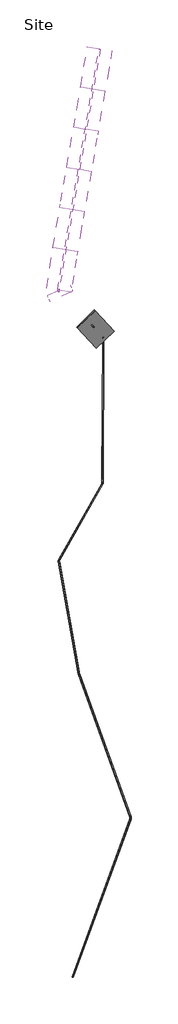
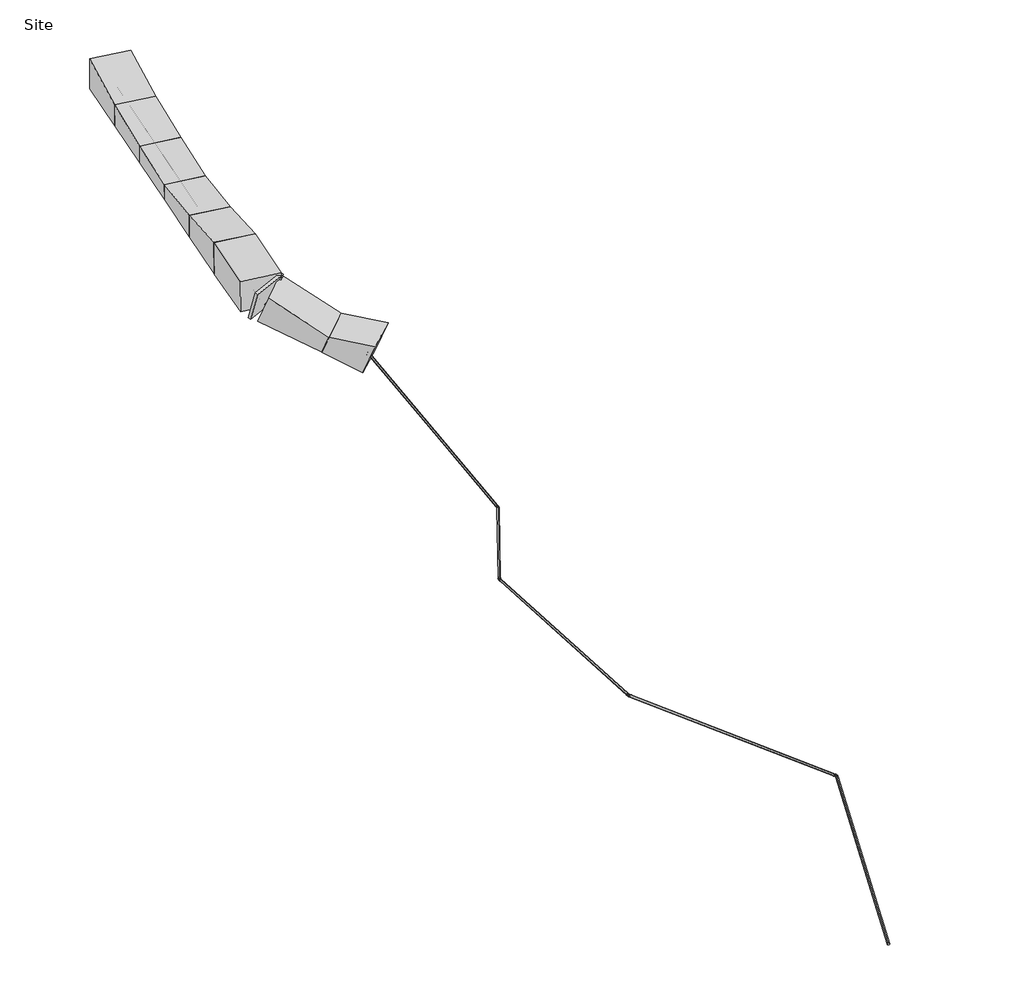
# One storey: 9 proxies, 7 pipe segments, 6 pipe fittings.
"""IFC4 building model written with IfcOpenShell, lengths in millimetres."""

from ifc_helpers import new_model, si_unit, point, frame, frame_2d, origin, place, context, project, spatial, circle_curve, trimmed, segment, composite_curve, outline, extrude, transform, mapped, element, save
from components import generic_models_437c631e, generic_models_aa4903e3, generic_models_9546db6e, generic_models_83ac6ffc, generic_models_15930065, generic_models_fc119a4f, generic_models_04c47b5f, generic_models_5fb7a897, generic_models_6456a392, m_elbow_pvc_sch_40_standard_b928e138, m_elbow_pvc_sch_40_standard_837b0bcb, m_elbow_pvc_sch_40_standard_ea1b4964, m_elbow_pvc_sch_40_standard_bafaa3fb, m_elbow_pvc_sch_40_standard_75780b4e, m_elbow_pvc_sch_40_standard_62035922

model = new_model("IFC4")

# Units and contexts
model_context = context("Model", 3, world=origin())
ifc_project = project(units=[si_unit("LENGTHUNIT", "METRE", prefix="MILLI")], contexts=[model_context])

# Site, building, storey
site = spatial("IfcSite", under=ifc_project)
building = spatial("IfcBuilding", under=site)
storey = spatial("IfcBuildingStorey", under=building, Name="Site", Elevation=4000.0)

# Proxies
placement = place(None, origin())
generic_models_shape = generic_models_437c631e(model_context)
element("IfcBuildingElementProxy", 1, Name="Excavation FamilySP : Excavation FamilySP", ObjectType="Excavation FamilySP : Excavation FamilySP", at=placement, inside=storey, context=model_context, shape_type="MappedRepresentation", body=[
    mapped(generic_models_shape, transform((-72103.1402909, 35015.1639087, 6227.6737437), x_axis=(0.9856363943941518, -0.16888131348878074, 0.0), y_axis=(0.16888131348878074, 0.9856363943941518, 0.0), z_axis=(0.0, 0.0, 1.0))),
])
generic_models_2_shape = generic_models_aa4903e3(model_context)
element("IfcBuildingElementProxy", 2, Name="Excavation FamilySP : Excavation FamilySP", ObjectType="Excavation FamilySP : Excavation FamilySP", at=placement, inside=storey, context=model_context, shape_type="MappedRepresentation", body=[
    mapped(generic_models_2_shape, transform((-72947.2553685, 30088.6831493, 6359.0401772), x_axis=(0.9856363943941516, -0.1688813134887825, 0.0), y_axis=(0.1688813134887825, 0.9856363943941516, 0.0), z_axis=(0.0, 0.0, 1.0))),
])
generic_models_3_shape = generic_models_9546db6e(model_context)
element("IfcBuildingElementProxy", 3, Name="Excavation FamilySP : Excavation FamilySP", ObjectType="Excavation FamilySP : Excavation FamilySP", at=placement, inside=storey, context=model_context, shape_type="MappedRepresentation", body=[
    mapped(generic_models_3_shape, transform((-73791.370446, 25162.20239, 6490.4066107), x_axis=(0.9856363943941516, -0.1688813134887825, 0.0), y_axis=(0.1688813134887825, 0.9856363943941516, 0.0), z_axis=(0.0, 0.0, 1.0))),
])
generic_models_4_shape = generic_models_83ac6ffc(model_context)
element("IfcBuildingElementProxy", 4, Name="Excavation FamilySP : Excavation FamilySP", ObjectType="Excavation FamilySP : Excavation FamilySP", at=placement, inside=storey, context=model_context, shape_type="MappedRepresentation", body=[
    mapped(generic_models_4_shape, transform((-74635.4855236, 20235.7216307, 6621.7730441), x_axis=(0.9856363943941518, -0.16888131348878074, 0.0), y_axis=(0.16888131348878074, 0.9856363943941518, 0.0), z_axis=(0.0, 0.0, 1.0))),
])
generic_models_5_shape = generic_models_15930065(model_context)
element("IfcBuildingElementProxy", 5, Name="Excavation FamilySP : Excavation FamilySP", ObjectType="Excavation FamilySP : Excavation FamilySP", at=placement, inside=storey, context=model_context, shape_type="MappedRepresentation", body=[
    mapped(generic_models_5_shape, transform((-75479.6006012, 15309.2408714, 6753.1394776), x_axis=(0.9856363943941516, -0.1688813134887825, 0.0), y_axis=(0.1688813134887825, 0.9856363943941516, 0.0), z_axis=(0.0, 0.0, 1.0))),
])
generic_models_6_shape = generic_models_fc119a4f(model_context)
element("IfcBuildingElementProxy", 6, Name="Excavation FamilySP : Excavation FamilySP", ObjectType="Excavation FamilySP : Excavation FamilySP", at=placement, inside=storey, context=model_context, shape_type="MappedRepresentation", body=[
    mapped(generic_models_6_shape, transform((-76323.7156788, 10382.760112, 6884.5059111), x_axis=(0.9877946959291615, -0.15576148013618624, 0.0), y_axis=(0.15576148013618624, 0.9877946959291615, 0.0), z_axis=(0.0, 0.0, 1.0))),
])
generic_models_7_shape = generic_models_04c47b5f(model_context)
element("IfcBuildingElementProxy", 7, Name="Excavation FamilySP : Excavation FamilySP", ObjectType="Excavation FamilySP : Excavation FamilySP", at=placement, inside=storey, context=model_context, shape_type="MappedRepresentation", body=[
    mapped(generic_models_7_shape, transform((-77113.4628499, 5374.4097411, 6983.5706996), x_axis=(0.9108628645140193, 0.4127091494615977, 0.0), y_axis=(-0.4127091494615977, 0.9108628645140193, 0.0), z_axis=(0.0, 0.0, 1.0))),
])
generic_models_8_shape = generic_models_5fb7a897(model_context)
element("IfcBuildingElementProxy", 8, Name="Excavation FamilySP : Excavation FamilySP", ObjectType="Excavation FamilySP : Excavation FamilySP", at=placement, inside=storey, context=model_context, shape_type="MappedRepresentation", body=[
    mapped(generic_models_8_shape, transform((-77027.5931339, 5184.8924125, 6929.8731907), x_axis=(0.7156555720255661, 0.6984533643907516, 0.0), y_axis=(-0.6984533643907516, 0.7156555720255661, 0.0), z_axis=(0.0, 0.0, 1.0))),
])
generic_models_9_shape = generic_models_6456a392(model_context)
element("IfcBuildingElementProxy", 9, Name="Excavation FamilySP : Excavation FamilySP", ObjectType="Excavation FamilySP : Excavation FamilySP", at=placement, inside=storey, context=model_context, shape_type="MappedRepresentation", body=[
    mapped(generic_models_9_shape, transform((-73762.8995048, 1839.7926453, 5154.462497), x_axis=(0.7298751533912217, 0.6835804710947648, 0.0), y_axis=(-0.6835804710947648, 0.7298751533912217, 0.0), z_axis=(0.0, 0.0, 1.0))),
])

# Pipe fittings
m_elbow_pvc_sch_40_standard_shape = m_elbow_pvc_sch_40_standard_b928e138(model_context)
element("IfcPipeFitting", 10, ObjectType="M_Elbow - PVC - Sch 40 : Standard", at=placement, inside=storey, context=model_context, shape_type="MappedRepresentation", body=[
    mapped(m_elbow_pvc_sch_40_standard_shape, transform((-77186.8620352, 5345.2077326, 7518.8341265), x_axis=(-0.16882301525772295, -0.9852961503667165, 0.026273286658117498), y_axis=(0.8771469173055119, -0.16234384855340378, -0.45194884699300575), z_axis=(0.4495687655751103, -0.053253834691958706, 0.891656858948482))),
])
m_elbow_pvc_sch_40_standard_2_shape = m_elbow_pvc_sch_40_standard_837b0bcb(model_context)
element("IfcPipeFitting", 11, ObjectType="M_Elbow - PVC - Sch 40 : Standard", at=placement, inside=storey, context=model_context, shape_type="MappedRepresentation", body=[
    mapped(m_elbow_pvc_sch_40_standard_2_shape, transform((-71655.7313714, -319.2729312, 4508.5391088), x_axis=(0.0, 0.9933244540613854, 0.11535392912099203), y_axis=(-0.9213241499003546, -0.0448490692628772, 0.3861999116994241), z_axis=(0.388795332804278, -0.10627836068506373, 0.9151738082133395))),
])
m_elbow_pvc_sch_40_standard_3_shape = m_elbow_pvc_sch_40_standard_ea1b4964(model_context)
element("IfcPipeFitting", 12, ObjectType="M_Elbow - PVC - Sch 40 : Standard", at=placement, inside=storey, context=model_context, shape_type="MappedRepresentation", body=[
    mapped(m_elbow_pvc_sch_40_standard_3_shape, transform((-71722.4063714, -18301.4074188, 2449.1859711), x_axis=(0.49458637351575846, 0.8566487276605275, -0.14675583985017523), y_axis=(-0.7474055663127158, 0.5053915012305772, 0.4312358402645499), z_axis=(0.4435867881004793, -0.10359723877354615, 0.8902237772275))),
])
m_elbow_pvc_sch_40_standard_4_shape = m_elbow_pvc_sch_40_standard_bafaa3fb(model_context)
element("IfcPipeFitting", 13, ObjectType="M_Elbow - PVC - Sch 40 : Standard", at=placement, inside=storey, context=model_context, shape_type="MappedRepresentation", body=[
    mapped(m_elbow_pvc_sch_40_standard_4_shape, transform((-77132.5753869, -27843.5264867, 4042.3223982), x_axis=(-0.4880170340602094, -0.8609248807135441, 0.14369316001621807), y_axis=(0.7688300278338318, -0.5019376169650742, -0.396180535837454), z_axis=(0.41320668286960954, -0.0828672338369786, 0.9068590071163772))),
])
m_elbow_pvc_sch_40_standard_5_shape = m_elbow_pvc_sch_40_standard_75780b4e(model_context)
element("IfcPipeFitting", 14, ObjectType="M_Elbow - PVC - Sch 40 : Standard", at=placement, inside=storey, context=model_context, shape_type="MappedRepresentation", body=[
    mapped(m_elbow_pvc_sch_40_standard_5_shape, transform((-74679.048498, -41624.818926, 1640.3138191), x_axis=(0.17276666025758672, -0.9703302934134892, -0.16914728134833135), y_axis=(0.5796213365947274, -0.038688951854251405, 0.8139669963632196), z_axis=(-0.7963609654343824, -0.23866773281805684, 0.555739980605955))),
])
m_elbow_pvc_sch_40_standard_6_shape = m_elbow_pvc_sch_40_standard_62035922(model_context)
element("IfcPipeFitting", 15, ObjectType="M_Elbow - PVC - Sch 40 : Standard", at=placement, inside=storey, context=model_context, shape_type="MappedRepresentation", body=[
    mapped(m_elbow_pvc_sch_40_standard_6_shape, transform((-68271.882547, -59478.9787209, 3394.2247119), x_axis=(0.3420193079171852, 0.9396903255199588, -0.0022102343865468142), y_axis=(-0.9304609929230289, 0.3383293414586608, -0.14062573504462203), z_axis=(-0.13139685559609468, 0.05015325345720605, 0.9900603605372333))),
])

# Pipe segments
element("IfcPipeSegment", 16, ObjectType="Default", at=placement, inside=storey, context=model_context, shape_type="SweptSolid", body=[
    extrude(outline(composite_curve([segment(trimmed(circle_curve(frame_2d((0.0, 84.1375)), 84.1375), [point((-84.1366474, 84.5162603))], [point((0.3787603, 168.2741474))], False, "CARTESIAN"), True, "CONTINUOUS"), segment(trimmed(circle_curve(frame_2d((0.0, 84.1375)), 84.1375), [point((0.3787603, 168.2741474))], [point((84.1366474, 83.7587397))], False, "CARTESIAN"), True, "CONTINUOUS"), segment(trimmed(circle_curve(frame_2d((0.0, 84.1375)), 84.1375), [point((84.1366474, 83.7587397))], [point((-0.3787603, 0.0008525))], False, "CARTESIAN"), True, "CONTINUOUS"), segment(trimmed(circle_curve(frame_2d((0.0, 84.1375)), 84.1375), [point((-0.3787603, 0.0008525))], [point((-84.1366474, 84.5162603))], False, "CARTESIAN"), True, "CONTINUOUS")], self_intersect=False)), frame((-72103.1402909, 35012.9211483, 6643.5661564), z_axis=(-0.16882301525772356, -0.9852961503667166, 0.026273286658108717), x_axis=(0.985646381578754, -0.1687630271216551, 0.004500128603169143)), (0.0, 0.0, 1.0), 29934.9292185),
])
element("IfcPipeSegment", 17, ObjectType="Default", at=placement, inside=storey, context=model_context, shape_type="SweptSolid", body=[
    extrude(outline(composite_curve([segment(trimmed(circle_curve(frame_2d((0.0, -84.1375)), 84.1375), [point((-79.4990986, -111.6876766))], [point((-27.5501766, -4.6384014))], False, "CARTESIAN"), True, "CONTINUOUS"), segment(trimmed(circle_curve(frame_2d((0.0, -84.1375)), 84.1375), [point((-27.5501766, -4.6384014))], [point((79.4990986, -56.5873233))], False, "CARTESIAN"), True, "CONTINUOUS"), segment(trimmed(circle_curve(frame_2d((0.0, -84.1375)), 84.1375), [point((79.4990986, -56.5873233))], [point((27.5501766, -163.6365985))], False, "CARTESIAN"), True, "CONTINUOUS"), segment(trimmed(circle_curve(frame_2d((0.0, -84.1375)), 84.1375), [point((27.5501766, -163.6365985))], [point((-79.4990986, -111.6876766))], False, "CARTESIAN"), True, "CONTINUOUS")], self_intersect=False)), frame((-71771.8238767, -160.8766366, 4497.3541648), z_axis=(-0.652938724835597, 0.6690199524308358, 0.3550821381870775), x_axis=(0.7574107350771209, 0.5767399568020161, 0.30610455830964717)), (0.0, 0.0, 1.0), 8114.4773905),
])
element("IfcPipeSegment", 18, ObjectType="Default", at=placement, inside=storey, context=model_context, shape_type="SweptSolid", body=[
    extrude(outline(composite_curve([segment(trimmed(circle_curve(frame_2d((0.0, -84.1375001)), 84.1375), [point((-84.1374924, -84.1016578))], [point((0.0358422, -7.6e-06))], False, "CARTESIAN"), True, "CONTINUOUS"), segment(trimmed(circle_curve(frame_2d((0.0, -84.1375001)), 84.1375), [point((0.0358422, -7.6e-06))], [point((84.1374924, -84.1733423))], False, "CARTESIAN"), True, "CONTINUOUS"), segment(trimmed(circle_curve(frame_2d((0.0, -84.1375001)), 84.1375), [point((84.1374924, -84.1733423))], [point((-0.0358422, -168.2749924))], False, "CARTESIAN"), True, "CONTINUOUS"), segment(trimmed(circle_curve(frame_2d((0.0, -84.1375001)), 84.1375), [point((-0.0358422, -168.2749924))], [point((-84.1374924, -84.1016578))], False, "CARTESIAN"), True, "CONTINUOUS")], self_intersect=False)), frame((-71721.9102709, -18159.3523307, 2380.7648687), z_axis=(0.0037202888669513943, 0.9935010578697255, 0.11376206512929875), x_axis=(0.9999930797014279, -0.003696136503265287, -0.00042323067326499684)), (0.0, 0.0, 1.0), 17788.6454107),
])
element("IfcPipeSegment", 19, ObjectType="Default", at=placement, inside=storey, context=model_context, shape_type="SweptSolid", body=[
    extrude(outline(composite_curve([segment(trimmed(circle_curve(frame_2d((0.0, 84.1375)), 84.1375), [point((-83.8597739, 90.9681103))], [point((6.8306102, 167.9972739))], False, "CARTESIAN"), True, "CONTINUOUS"), segment(trimmed(circle_curve(frame_2d((0.0, 84.1375)), 84.1375), [point((6.8306102, 167.9972739))], [point((83.8597738, 77.3068898))], False, "CARTESIAN"), True, "CONTINUOUS"), segment(trimmed(circle_curve(frame_2d((0.0, 84.1375)), 84.1375), [point((83.8597738, 77.3068898))], [point((-6.8306103, 0.2777262))], False, "CARTESIAN"), True, "CONTINUOUS"), segment(trimmed(circle_curve(frame_2d((0.0, 84.1375)), 84.1375), [point((-6.8306103, 0.2777262))], [point((-83.8597739, 90.9681103))], False, "CARTESIAN"), True, "CONTINUOUS")], self_intersect=False)), frame((-71788.3594643, -18429.4929369, 2385.7663609), z_axis=(-0.4880170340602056, -0.8609248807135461, 0.1436931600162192), x_axis=(0.8728341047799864, -0.48135837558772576, 0.08034139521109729)), (0.0, 0.0, 1.0), 10817.5298866),
])
element("IfcPipeSegment", 20, ObjectType="Default", at=placement, inside=storey, context=model_context, shape_type="SweptSolid", body=[
    extrude(outline(composite_curve([segment(trimmed(circle_curve(frame_2d((0.0, -84.1374999)), 84.1375), [point((-84.0993693, -86.6702837))], [point((-2.5327837, -0.0381307))], False, "CARTESIAN"), True, "CONTINUOUS"), segment(trimmed(circle_curve(frame_2d((0.0, -84.1374999)), 84.1375), [point((-2.5327837, -0.0381307))], [point((84.0993693, -81.6047162))], False, "CARTESIAN"), True, "CONTINUOUS"), segment(trimmed(circle_curve(frame_2d((0.0, -84.1374999)), 84.1375), [point((84.0993693, -81.6047162))], [point((2.5327837, -168.2368693))], False, "CARTESIAN"), True, "CONTINUOUS"), segment(trimmed(circle_curve(frame_2d((0.0, -84.1374999)), 84.1375), [point((2.5327837, -168.2368693))], [point((-84.0993693, -86.6702837))], False, "CARTESIAN"), True, "CONTINUOUS")], self_intersect=False)), frame((-74702.0869321, -41480.9764807, 1579.9820456), z_axis=(-0.17276666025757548, 0.9703302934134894, 0.16914728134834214), x_axis=(0.9849627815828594, 0.17020005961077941, 0.029669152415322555)), (0.0, 0.0, 1.0), 13935.8869804),
])
element("IfcPipeSegment", 21, ObjectType="Default", at=placement, inside=storey, context=model_context, shape_type="SweptSolid", body=[
    extrude(outline(composite_curve([segment(trimmed(circle_curve(frame_2d((0.0, 84.1375)), 84.1375), [point((-84.0915815, 81.3581425))], [point((-2.7793576, 168.2290816))], False, "CARTESIAN"), True, "CONTINUOUS"), segment(trimmed(circle_curve(frame_2d((0.0, 84.1375)), 84.1375), [point((-2.7793576, 168.2290816))], [point((84.0915814, 86.9168576))], False, "CARTESIAN"), True, "CONTINUOUS"), segment(trimmed(circle_curve(frame_2d((0.0, 84.1375)), 84.1375), [point((84.0915814, 86.9168576))], [point((2.7793575, 0.0459185))], False, "CARTESIAN"), True, "CONTINUOUS"), segment(trimmed(circle_curve(frame_2d((0.0, 84.1375)), 84.1375), [point((2.7793575, 0.0459185))], [point((-84.0915815, 81.3581425))], False, "CARTESIAN"), True, "CONTINUOUS")], self_intersect=False)), frame((-74633.6099672, -41757.889534, 1568.077683), z_axis=(0.3363046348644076, -0.9372378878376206, 0.09211044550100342), x_axis=(0.941753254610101, 0.33469217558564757, -0.032893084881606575)), (0.0, 0.0, 1.0), 18783.2118333),
])
element("IfcPipeSegment", 22, ObjectType="Default", at=placement, inside=storey, context=model_context, shape_type="SweptSolid", body=[
    extrude(outline(composite_curve([segment(trimmed(circle_curve(frame_2d((0.0, 84.1375)), 84.1375), [point((-84.1374728, 84.2051852))], [point((0.0676852, 168.2749728))], False, "CARTESIAN"), True, "CONTINUOUS"), segment(trimmed(circle_curve(frame_2d((0.0, 84.1375)), 84.1375), [point((0.0676852, 168.2749728))], [point((84.1374728, 84.0698148))], False, "CARTESIAN"), True, "CONTINUOUS"), segment(trimmed(circle_curve(frame_2d((0.0, 84.1375)), 84.1375), [point((84.1374728, 84.0698148))], [point((-0.0676852, 2.73e-05))], False, "CARTESIAN"), True, "CONTINUOUS"), segment(trimmed(circle_curve(frame_2d((0.0, 84.1375)), 84.1375), [point((-0.0676852, 2.73e-05))], [point((-84.1374728, 84.2051852))], False, "CARTESIAN"), True, "CONTINUOUS")], self_intersect=False)), frame((-68317.4908217, -59604.4843241, 3310.3821794), z_axis=(-0.342019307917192, -0.9396903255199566, 0.0022102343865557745), x_axis=(0.9396929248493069, -0.3420183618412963, 0.0008044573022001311)), (0.0, 0.0, 1.0), 20666.65),
])

save(model, "model.ifc")
